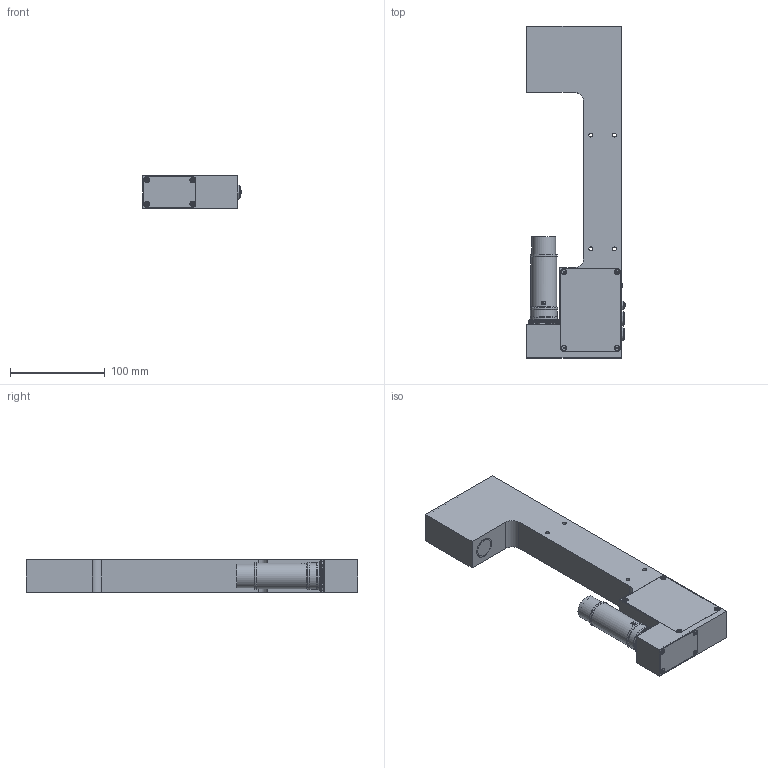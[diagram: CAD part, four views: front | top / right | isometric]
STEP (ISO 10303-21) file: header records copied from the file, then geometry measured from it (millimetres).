
FILE_DESCRIPTION(/* description */ (''),/* implementation_level */ '2;1');
FILE_NAME(/* name */ 'H:\ZVW\Inventor\E-Mail-Zeichnungen\STEP\L-LAS-TB-F-150_60-MO-1x_0895_00.stp',/* time_stamp */ '2014-01-16T11:48:52+01:00',/* author */ ('TK-01'),/* organization */ (''),/* preprocessor_version */ 'ST-DEVELOPER v15.2',/* originating_system */ 'Autodesk Inventor 2014',/* authorisation */ '');
FILE_SCHEMA (('AUTOMOTIVE_DESIGN { 1 0 10303 214 3 1 1 }'));
Length unit declared in the file: millimetre
Products named in the file (1): Bauteil6
Bounding box: 104 x 350 x 34 mm (x, y, z)
Volume: 764797.8 mm3; surface area: 99513.7 mm2
Topology: 1 solids, 7 shells, 1061 faces, 2903 edges, 1937 vertices
Faces by surface type: plane 550, cylinder 417, cone 79, bspline 9, sphere 5, torus 1
Full cylindrical faces by diameter (mm): 0.5 x19, 2.4 x1, 2.5 x12, 2.6 x1, 2.9 x12, 3 x4, 3.1 x4, 4.134 x7, 4.5 x1, 5 x14, 5.6 x1, 6 x1, 7 x1, 7.05 x1, 7.1 x1, 7.3 x1, 9 x2, 12.7 x1, 17.5 x1, 19 x1, 19.1 x1, 22 x1, 22.05 x1, 22.376 x1, 23 x1, 24.2 x1, 24.536 x1, 24.9 x1, 27 x1, 28 x2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
Entity records: 35928 total; most frequent: CARTESIAN_POINT 10451, ORIENTED_EDGE 5324, DIRECTION 4720, EDGE_CURVE 2662, VERTEX_POINT 1869, AXIS2_PLACEMENT_3D 1822, EDGE_LOOP 1323, LINE 1076
